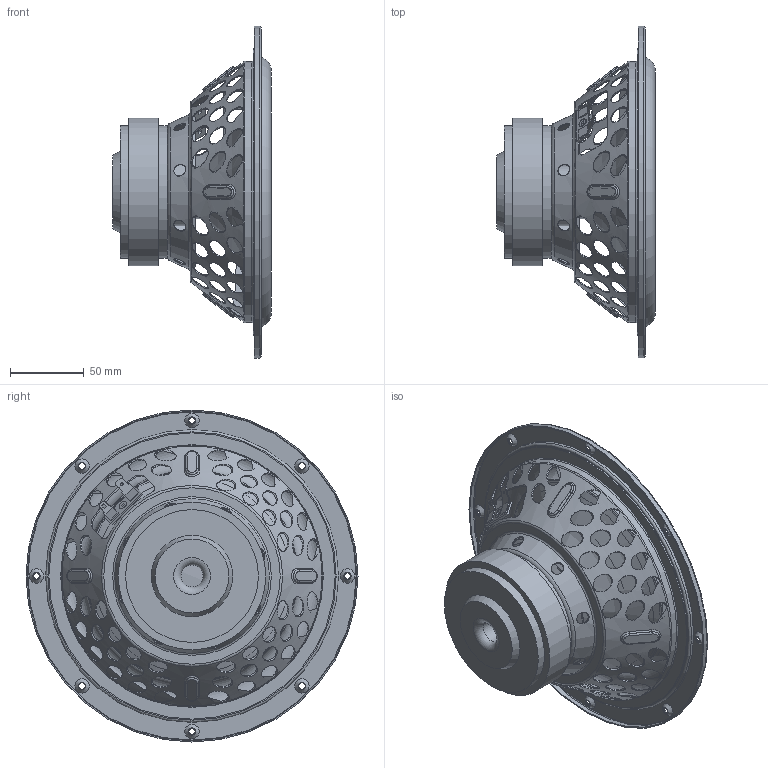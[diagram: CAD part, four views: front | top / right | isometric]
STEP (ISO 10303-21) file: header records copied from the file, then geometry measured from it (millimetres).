
FILE_DESCRIPTION(/* description */ ('STEP AP203'),/* implementation_level */ '2;1');
FILE_NAME(/* name */ 'PCS8-4.step',/* time_stamp */ '2026-03-10T12:28:41-04:00',/* author */ (''),/* organization */ (''),/* preprocessor_version */ 'ST-DEVELOPER v20.1',/* originating_system */ 'Autodesk Translation Framework v14.24.0.0',/* authorisation */ '');
FILE_SCHEMA (('AUTOMOTIVE_DESIGN { 1 0 10303 214 3 1 1 }'));
Length unit declared in the file: inch
Products named in the file (3): 8inch WF; 8INCH YIQUAN; 214-080-00412
Assembly tree (2 placements, depth 2):
  8inch WF
    8INCH YIQUAN
    214-080-00412
Bounding box: 107.49 x 225 x 225 mm (x, y, z)
Volume: 320928.4 mm3; surface area: 247812.8 mm2
Topology: 2 solids, 2 shells, 446 faces, 1178 edges, 749 vertices
Faces by surface type: plane 142, cylinder 131, bspline 85, cone 50, torus 35, sphere 3
Full cylindrical faces by diameter (mm): 2 x1, 4.2 x8, 5.8 x6, 6 x1, 6.2 x8, 8 x8, 11 x53, 15 x1, 36 x1, 36.262 x2, 45.72 x1, 60 x1, 90 x2, 100 x2, 107.537 x1, 113 x1, 175.4 x1, 177 x1, 178 x1, 194 x1, 196 x1, 196.8 x1, 198.4 x1, 223.4 x1, 225 x1
Entity records: 29185 total; most frequent: CARTESIAN_POINT 18499, ORIENTED_EDGE 2356, DIRECTION 1946, EDGE_CURVE 1178, AXIS2_PLACEMENT_3D 763, VERTEX_POINT 749, EDGE_LOOP 609, FACE_OUTER_BOUND 446
